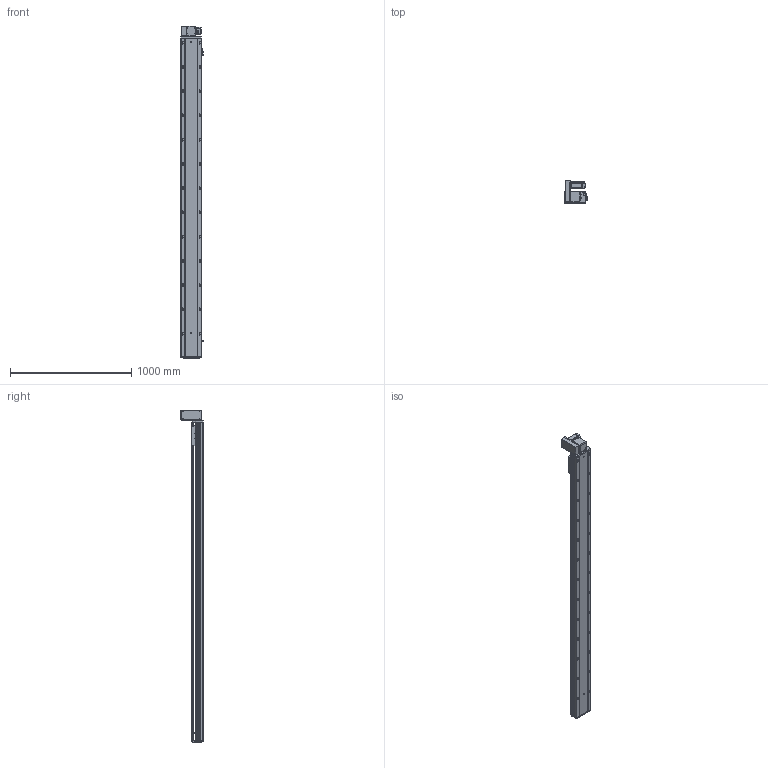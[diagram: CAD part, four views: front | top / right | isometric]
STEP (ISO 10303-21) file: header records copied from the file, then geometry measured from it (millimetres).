
FILE_DESCRIPTION (( 'STEP AP203' ), '1' );
FILE_NAME ('RY170-T-300-UL-P400W.SLDASM_2350.step', '2021-03-02T02:14:56', ( '盈信电脑' ), ( '东莞市道滘镇水果街19号' ), 'SwSTEP 2.0', 'SolidWorks 2012', '' );
FILE_SCHEMA (( 'CONFIG_CONTROL_DESIGN' ));
Products named in the file (18): 15; RY170-T-300-UL-P400W.SLDASM_2350; RY170-T蹟翐M4; RY170同步轮电机安装板(400W); RY170肮祭謫萇儂欶; RY120-T主同步轮轴承压盖; RY170-T肮祭湍揤踡輸1; RY170-T肮祭謫裔啣; RY170-T肮祭湍揤踡輸2; 滅袉蝶18-10; RY170外置感应片(200共用）; RY170翋肮祭謫釱; RY170肮祭謫ヶ裔啣; RY170肮祭湍臏賑輸; 覜茼ん672; RY170-T-300肮祭謫倰第裔啣-DL_2350; RY170綴裔啣; RY170-T-300肮祭謫倰第菁釱-DL_2350
Assembly tree (20 placements, depth 2):
  RY170-T-300-UL-P400W.SLDASM_2350
    RY170-T-300肮祭謫倰第菁釱-DL_2350
    RY170肮祭湍臏賑輸
    RY170-T-300肮祭謫倰第裔啣-DL_2350
    RY170綴裔啣
    覜茼ん672  x3
    RY170外置感应片(200共用）
    RY170肮祭謫ヶ裔啣
    RY170翋肮祭謫釱
    RY170-T肮祭湍揤踡輸1
    RY170-T肮祭湍揤踡輸2
    RY170-T肮祭謫裔啣
    滅袉蝶18-10  x2
    RY120-T主同步轮轴承压盖
    RY170肮祭謫萇儂欶
    RY170同步轮电机安装板(400W)
    RY170-T蹟翐M4
    15
Bounding box: 183.7 x 184 x 2738 mm (x, y, z)
Volume: 12509130.4 mm3; surface area: 4314889.2 mm2
Topology: 20 solids, 20 shells, 2909 faces, 8214 edges, 5211 vertices
Faces by surface type: cylinder 1394, plane 1157, cone 328, bspline 30
Entity records: 94416 total; most frequent: CARTESIAN_POINT 22126, ORIENTED_EDGE 14888, DIRECTION 14466, EDGE_CURVE 7444, AXIS2_PLACEMENT_3D 5153, VERTEX_POINT 4879, VECTOR 4160, LINE 4160
